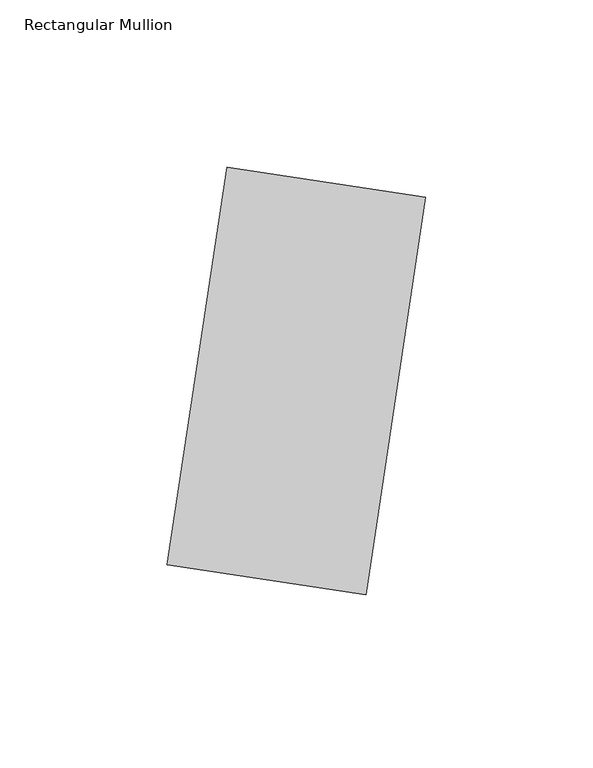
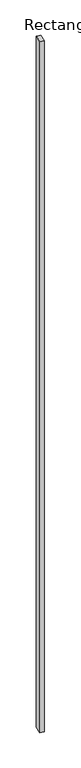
"""IFC4 building model written with IfcOpenShell, lengths in millimetres: member geometry, Rectangular Mullion : TERÇA 6x12 cm."""

from ifc_helpers import new_model, si_unit, frame, origin, place, context, project, spatial, polyline, outline, extrude, source, transform, mapped, element, save


def rectangular_mullion_611aebc0(model_context):
    return source(origin(), model_context, "Body", "SweptSolid", [
        extrude(outline(polyline([(-29.6680906, 4.4502136), (-11.8672362, 123.1225759), (47.4689449, 114.2221488), (29.6680906, -4.4502136), (-29.6680906, 4.4502136)])), frame((0.0, 0.0, -10150.0), z_axis=(0.0, 0.0, 1.0), x_axis=(1.0, 0.0, 0.0)), (0.0, 0.0, 1.0), 10150.0),
    ])


if __name__ == "__main__":
    model = new_model("IFC4")
    model_context = context("Model", 3, world=origin())
    ifc_project = project(units=[si_unit("LENGTHUNIT", "METRE", prefix="MILLI")], contexts=[model_context])
    site = spatial("IfcSite", under=ifc_project)
    building = spatial("IfcBuilding", under=site)
    placement = place(None, origin())
    rectangular_mullion_shape = rectangular_mullion_611aebc0(model_context)
    element("IfcMember", 1, ObjectType="Rectangular Mullion : TERÇA 6x12 cm", at=placement, inside=building, context=model_context, shape_type="MappedRepresentation", body=[
        mapped(rectangular_mullion_shape, transform((0.0, 0.0, 0.0), x_axis=(1.0, 0.0, 0.0), y_axis=(0.0, 1.0, 0.0), z_axis=(0.0, 0.0, 1.0))),
    ])
    save(model, "model.ifc")
